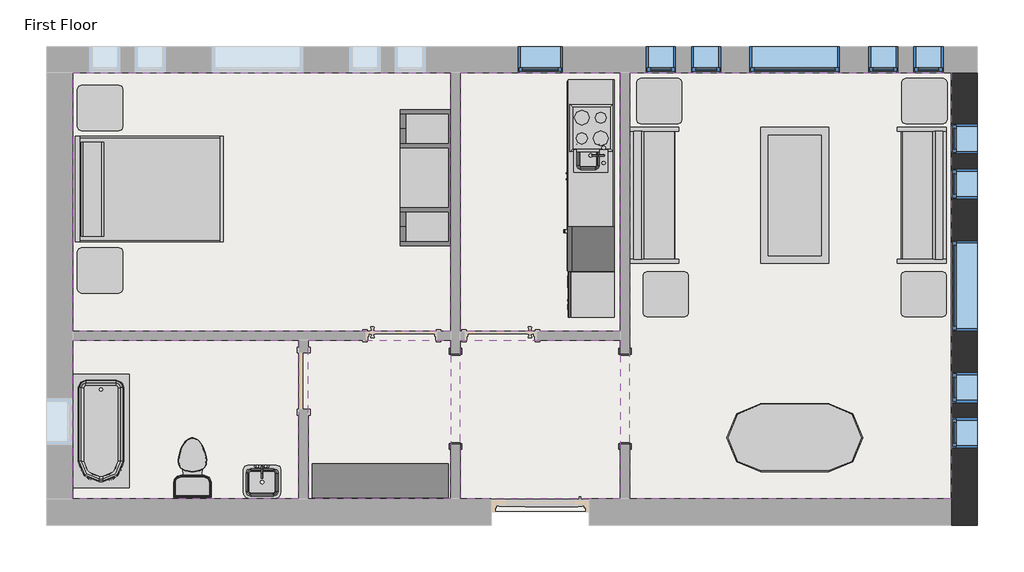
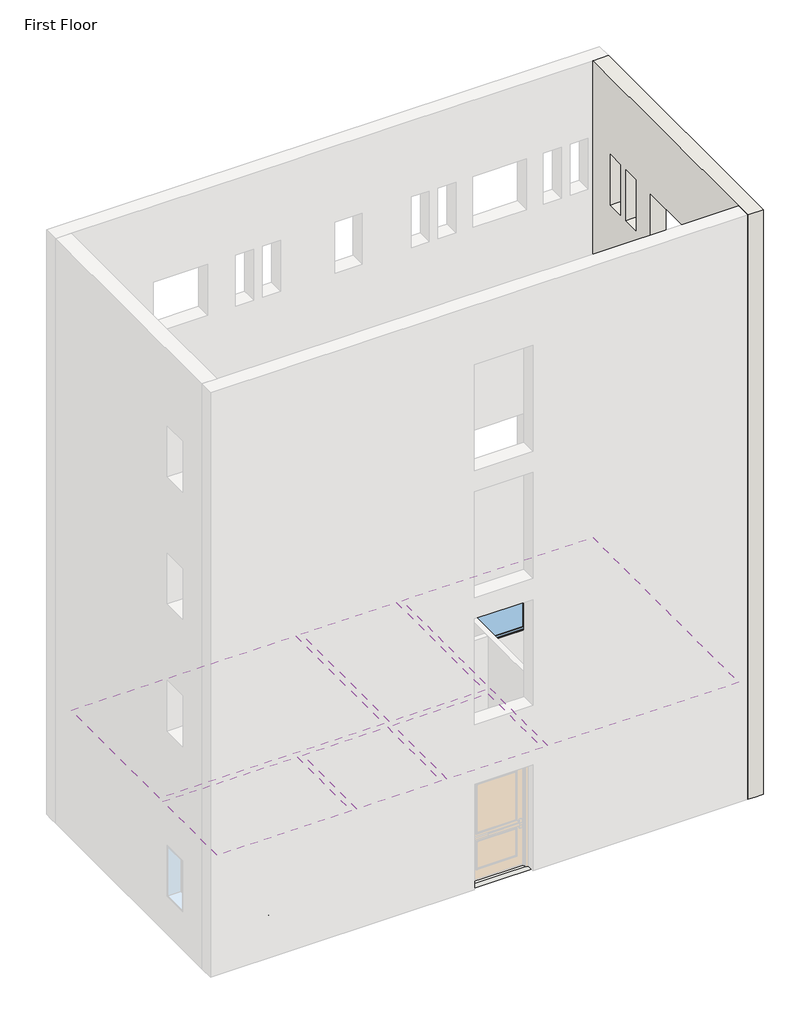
# One storey, part 2 of 2: 14 furniture elements, 11 windows, 6 coverings, 6 proxies, 4 flow terminals, 1 slab, 1 wall.
"""IFC4 building model written with IfcOpenShell, lengths in millimetres."""

from ifc_helpers import new_model, si_unit, frame, origin, place, context, project, spatial, polyline, outline, extrude, faceted_brep, transform, mapped, element, save
from components import proxy_a6faaae8, proxy_45b28599, proxy_2d72b8be, proxy_f44482cc, proxy_d58c73d0, proxy_c523a7b7, flow_terminal_871c2e40, flow_terminal_62a433f7, toilet_domestic_3d_toilet_domestic_3d_f7549cf7, toilet_domestic_3d_toilet_domestic_3d_183bbd19, tub_rectangular_3d_tub_rectangular_3d_c56944d8, furniture_096e7f55, furniture_b11095bc, furniture_7c473f12, furniture_cf0b6580, furniture_a4ffab56, furniture_4aa42607, furniture_cd93a443, furniture_2c34a4f9, furniture_3a588284, furniture_1befe2a2, window_da97879f, window_d61ef850, window_60baf983, window_6eb97611

model = new_model("IFC4")

# Units and contexts
model_context = context("Model", 3, world=origin())
ifc_project = project(units=[si_unit("LENGTHUNIT", "METRE", prefix="MILLI")], contexts=[model_context])

# Site, building, storey
site = spatial("IfcSite", under=ifc_project)
building = spatial("IfcBuilding", under=site)
storey = spatial("IfcBuildingStorey", under=building, Name="First Floor", Elevation=-914.4)

# Proxies
placement = place(None, origin())
proxy_shape = proxy_a6faaae8(model_context)
element("IfcBuildingElementProxy", 1, Name="Cook Top-4 Unit2 : 22\" x 20\"", ObjectType="Cook Top-4 Unit2 : 22\" x 20\"", at=placement, inside=storey, context=model_context, shape_type="MappedRepresentation", body=[
    mapped(proxy_shape, transform((-9031.7273953, 6866.0370415, -912.7), x_axis=(0.0, 1.0, 0.0), y_axis=(-1.0, 0.0, 0.0), z_axis=(0.0, 0.0, 1.0))),
])
proxy_2_shape = proxy_45b28599(model_context)
element("IfcBuildingElementProxy", 2, Name="Dishwasher : 24\" x 24\" x 34\"", ObjectType="Dishwasher : 24\" x 24\" x 34\"", at=placement, inside=storey, context=model_context, shape_type="MappedRepresentation", body=[
    mapped(proxy_2_shape, transform((-9291.8269601, 5000.45451, -914.4), x_axis=(0.0, -1.0, 0.0), y_axis=(1.0, 0.0, 0.0), z_axis=(0.0, 0.0, 1.0))),
])
proxy_3_shape = proxy_2d72b8be(model_context)
element("IfcBuildingElementProxy", 3, Name="Kitchenette - Medium : 8'6\"", ObjectType="Kitchenette - Medium : 8'6\"", at=placement, inside=storey, context=model_context, shape_type="MappedRepresentation", body=[
    mapped(proxy_3_shape, transform((-8720.5773953, 6237.0747464, -914.4), x_axis=(0.0, -1.0, 0.0), y_axis=(1.0, 0.0, 0.0), z_axis=(0.0, 0.0, 1.0))),
])
proxy_4_shape = proxy_f44482cc(model_context)
element("IfcBuildingElementProxy", 4, Name="Passage Opening-Cased : 48\" x 84\"", ObjectType="Passage Opening-Cased : 48\" x 84\"", at=placement, inside=storey, context=model_context, shape_type="MappedRepresentation", body=[
    mapped(proxy_4_shape, transform((-8577.1844712, 3224.0452741, -914.4), x_axis=(0.0, 1.0, 0.0), y_axis=(-1.0, 0.0, 0.0), z_axis=(0.0, 0.0, 1.0))),
])
proxy_5_shape = proxy_d58c73d0(model_context)
element("IfcBuildingElementProxy", 5, Name="Passage Opening-Cased : 48\" x 84\"", ObjectType="Passage Opening-Cased : 48\" x 84\"", at=placement, inside=storey, context=model_context, shape_type="MappedRepresentation", body=[
    mapped(proxy_5_shape, transform((-10863.1844712, 3224.0452741, -914.4), x_axis=(0.0, 1.0, 0.0), y_axis=(-1.0, 0.0, 0.0), z_axis=(0.0, 0.0, 1.0))),
])
proxy_6_shape = proxy_c523a7b7(model_context)
element("IfcBuildingElementProxy", 6, Name="Refrigerator : 24\" x 25\" LH", ObjectType="Refrigerator : 24\" x 25\" LH", at=placement, inside=storey, context=model_context, shape_type="MappedRepresentation", body=[
    mapped(proxy_6_shape, transform((-9020.2263668, 5234.0870415, -914.4), x_axis=(0.0, -1.0, 0.0), y_axis=(1.0, 0.0, 0.0), z_axis=(0.0, 0.0, 1.0))),
])

# Coverings
element("IfcCovering", 7, ObjectType="GWB on Mtl. Stud", at=placement, inside=storey, context=model_context, shape_type="SweptSolid", body=[
    extrude(outline(polyline([(-16020.9719712, 7611.6441174), (-10926.6844712, 7611.6441174), (-10926.6844712, 4130.1880697), (-16020.9719712, 4130.1880697), (-16020.9719712, 7611.6441174)])), frame((0.0, 0.0, 1676.4), z_axis=(0.0, 0.0, 1.0), x_axis=(1.0, 0.0, 0.0)), (0.0, 0.0, 1.0), 107.95),
])
element("IfcCovering", 8, ObjectType="GWB on Mtl. Stud", at=placement, inside=storey, context=model_context, shape_type="SweptSolid", body=[
    extrude(outline(polyline([(-10799.6844712, 4130.1880697), (-10799.6844712, 7611.6441174), (-8640.6844712, 7611.6441174), (-8640.6844712, 4130.1880697), (-10799.6844712, 4130.1880697)])), frame((0.0, 0.0, 1676.4), z_axis=(0.0, 0.0, 1.0), x_axis=(1.0, 0.0, 0.0)), (0.0, 0.0, 1.0), 107.95),
])
element("IfcCovering", 9, ObjectType="GWB on Mtl. Stud", at=placement, inside=storey, context=model_context, shape_type="SweptSolid", body=[
    extrude(outline(polyline([(-8513.6844712, 1868.0691174), (-8513.6844712, 7611.6441174), (-4181.3969712, 7611.6441174), (-4181.3969712, 1868.0691174), (-8513.6844712, 1868.0691174)])), frame((0.0, 0.0, 1676.4), z_axis=(0.0, 0.0, 1.0), x_axis=(1.0, 0.0, 0.0)), (0.0, 0.0, 1.0), 107.95),
])
element("IfcCovering", 10, ObjectType="GWB on Mtl. Stud", at=placement, inside=storey, context=model_context, shape_type="SweptSolid", body=[
    extrude(outline(polyline([(-8640.6844712, 1868.0691174), (-10799.6844712, 1868.0691174), (-10799.6844712, 4003.1880697), (-8640.6844712, 4003.1880697), (-8640.6844712, 1868.0691174)])), frame((0.0, 0.0, 1676.4), z_axis=(0.0, 0.0, 1.0), x_axis=(1.0, 0.0, 0.0)), (0.0, 0.0, 1.0), 107.95),
])
element("IfcCovering", 11, ObjectType="GWB on Mtl. Stud", at=placement, inside=storey, context=model_context, shape_type="SweptSolid", body=[
    extrude(outline(polyline([(-10926.6844712, 1868.0691174), (-12845.9719712, 1868.0691174), (-12845.9719712, 4003.1880697), (-10926.6844712, 4003.1880697), (-10926.6844712, 1868.0691174)])), frame((0.0, 0.0, 1676.4), z_axis=(0.0, 0.0, 1.0), x_axis=(1.0, 0.0, 0.0)), (0.0, 0.0, 1.0), 107.95),
])
element("IfcCovering", 12, ObjectType="GWB on Mtl. Stud", at=placement, inside=storey, context=model_context, shape_type="SweptSolid", body=[
    extrude(outline(polyline([(-12972.9719712, 4003.1880697), (-12972.9719712, 1868.0691174), (-16020.9719712, 1868.0691174), (-16020.9719712, 4003.1880697), (-12972.9719712, 4003.1880697)])), frame((0.0, 0.0, 1676.4), z_axis=(0.0, 0.0, 1.0), x_axis=(1.0, 0.0, 0.0)), (0.0, 0.0, 1.0), 107.95),
])

# Flow terminals
flow_terminal_shape = flow_terminal_871c2e40(model_context)
element("IfcFlowTerminal", 13, ObjectType="Sink Kitchen-Island : 18\" x 18\"", at=placement, inside=storey, context=model_context, shape_type="MappedRepresentation", body=[
    mapped(flow_terminal_shape, transform((-9040.4227964, 6513.4262821, -927.1), x_axis=(0.0, -1.0, 0.0), y_axis=(1.0, 0.0, 0.0), z_axis=(0.0, 0.0, 1.0))),
])
flow_terminal_2_shape = flow_terminal_62a433f7(model_context)
element("IfcFlowTerminal", 14, ObjectType="Sink Vanity-Square : 20\" x 18\"", at=placement, inside=storey, context=model_context, shape_type="MappedRepresentation", body=[
    mapped(flow_terminal_2_shape, transform((-13483.9612118, 2145.1237163, -914.4), x_axis=(1.0, 0.0, 0.0), y_axis=(0.0, 1.0, 0.0), z_axis=(0.0, 0.0, 1.0))),
])
toilet_domestic_3d_toilet_domestic_3d_shape = toilet_domestic_3d_toilet_domestic_3d_f7549cf7(model_context)
toilet_domestic_3d_toilet_domestic_3d_2_shape = toilet_domestic_3d_toilet_domestic_3d_183bbd19(model_context)
element("IfcFlowTerminal", 15, ObjectType="Toilet-Domestic-3D : Toilet-Domestic-3D", at=placement, inside=storey, context=model_context, shape_type="MappedRepresentation", body=[
    mapped(toilet_domestic_3d_toilet_domestic_3d_shape, transform((-14408.0719712, 2388.7691174, -914.4), x_axis=(-1.0, 0.0, 0.0), y_axis=(0.0, -1.0, 0.0), z_axis=(0.0, 0.0, 1.0))),
    mapped(toilet_domestic_3d_toilet_domestic_3d_2_shape, transform((-14408.0719712, 2388.7691174, -914.4), x_axis=(-1.0, 0.0, 0.0), y_axis=(0.0, -1.0, 0.0), z_axis=(0.0, 0.0, 1.0))),
])
tub_rectangular_3d_tub_rectangular_3d_shape = tub_rectangular_3d_tub_rectangular_3d_c56944d8(model_context)
element("IfcFlowTerminal", 16, ObjectType="Tub-Rectangular-3D : Tub-Rectangular-3D", at=placement, inside=storey, context=model_context, shape_type="MappedRepresentation", body=[
    mapped(tub_rectangular_3d_tub_rectangular_3d_shape, transform((-16197.1844712, 2435.4536487, -914.4), x_axis=(0.0, -1.0, 0.0), y_axis=(1.0, 0.0, 0.0), z_axis=(0.0, 0.0, 1.0))),
])

# Furniture
furniture_shape = furniture_096e7f55(model_context)
element("IfcFurniture", 17, ObjectType="Bed-Shaker : Double 56\" x 78\"", at=placement, inside=storey, context=model_context, shape_type="MappedRepresentation", body=[
    mapped(furniture_shape, transform((-15975.8112951, 6061.1004868, -914.4), x_axis=(0.0, 1.0, 0.0), y_axis=(-1.0, 0.0, 0.0), z_axis=(0.0, 0.0, 1.0))),
])
furniture_2_shape = furniture_b11095bc(model_context)
element("IfcFurniture", 18, ObjectType="Counter Top w Sink Hole : 24\" Depth", at=placement, inside=storey, context=model_context, shape_type="MappedRepresentation", body=[
    mapped(furniture_2_shape, transform((-8720.5773953, 6313.2747464, -927.1), x_axis=(0.0, -1.0, 0.0), y_axis=(1.0, 0.0, 0.0), z_axis=(0.0, 0.0, 1.0))),
])
furniture_3_shape = furniture_7c473f12(model_context)
element("IfcFurniture", 19, ObjectType="Dresser : 72\" x 60\" x 18\"", at=placement, inside=storey, context=model_context, shape_type="MappedRepresentation", body=[
    mapped(furniture_3_shape, transform((-11608.4037114, 2478.8820715, -914.4), x_axis=(1.0, 0.0, 0.0), y_axis=(0.0, 1.0, 0.0), z_axis=(0.0, 0.0, 1.0))),
])
furniture_4_shape = furniture_cf0b6580(model_context)
element("IfcFurniture", 20, ObjectType="Entertainment Center : 72\" x 72\" x 24\"", at=placement, inside=storey, context=model_context, shape_type="MappedRepresentation", body=[
    mapped(furniture_4_shape, transform((-10825.0844712, 6196.8069525, -914.4), x_axis=(0.0, -1.0, 0.0), y_axis=(1.0, 0.0, 0.0), z_axis=(0.0, 0.0, 1.0))),
])
furniture_5_shape = furniture_a4ffab56(model_context)
element("IfcFurniture", 21, ObjectType="Sofa : 72\"", at=placement, inside=storey, context=model_context, shape_type="MappedRepresentation", body=[
    mapped(furniture_5_shape, transform((-8037.3303728, 5888.6861256, -914.4), x_axis=(0.0, 1.0, 0.0), y_axis=(-1.0, 0.0, 0.0), z_axis=(0.0, 0.0, 1.0))),
])
furniture_6_shape = furniture_4aa42607(model_context)
element("IfcFurniture", 22, ObjectType="Sofa : 72\"", at=placement, inside=storey, context=model_context, shape_type="MappedRepresentation", body=[
    mapped(furniture_6_shape, transform((-4722.8385696, 5888.6861256, -914.4), x_axis=(0.0, 1.0, 0.0), y_axis=(-1.0, 0.0, 0.0), z_axis=(0.0, 0.0, 1.0))),
])
furniture_7_shape = furniture_cd93a443(model_context)
element("IfcFurniture", 23, ObjectType="Table-Coffee : 36\" x 72\" x 18\"", at=placement, inside=storey, context=model_context, shape_type="MappedRepresentation", body=[
    mapped(furniture_7_shape, transform((-6386.395549, 5977.3223841, -914.4), x_axis=(0.0, -1.0, 0.0), y_axis=(1.0, 0.0, 0.0), z_axis=(0.0, 0.0, 1.0))),
])
furniture_8_shape = furniture_2c34a4f9(model_context)
element("IfcFurniture", 24, ObjectType="Table-Dining Oval : 36\" x 72\"", at=placement, inside=storey, context=model_context, shape_type="MappedRepresentation", body=[
    mapped(furniture_8_shape, transform((-5889.3647991, 3051.6674781, -914.4), x_axis=(1.0, 0.0, 0.0), y_axis=(0.0, 1.0, 0.0), z_axis=(0.0, 0.0, 1.0))),
])
furniture_9_shape = furniture_3a588284(model_context)
element("IfcFurniture", 25, ObjectType="Table-End : 24\" x 24\"", at=placement, inside=storey, context=model_context, shape_type="MappedRepresentation", body=[
    mapped(furniture_9_shape, transform((-8424.0054177, 7076.6566174, -914.4), x_axis=(1.0, 0.0, 0.0), y_axis=(0.0, 1.0, 0.0), z_axis=(0.0, 0.0, 1.0))),
])
element("IfcFurniture", 26, ObjectType="Table-End : 24\" x 24\"", at=placement, inside=storey, context=model_context, shape_type="MappedRepresentation", body=[
    mapped(furniture_9_shape, transform((-8338.5433691, 4473.0178252, -914.4), x_axis=(1.0, 0.0, 0.0), y_axis=(0.0, 1.0, 0.0), z_axis=(0.0, 0.0, 1.0))),
])
element("IfcFurniture", 27, ObjectType="Table-End : 24\" x 24\"", at=placement, inside=storey, context=model_context, shape_type="MappedRepresentation", body=[
    mapped(furniture_9_shape, transform((-15961.2056015, 4795.4191174, -914.4), x_axis=(1.0, 0.0, 0.0), y_axis=(0.0, 1.0, 0.0), z_axis=(0.0, 0.0, 1.0))),
])
furniture_10_shape = furniture_1befe2a2(model_context)
element("IfcFurniture", 28, ObjectType="Table-End : 24\" x 24\"", at=placement, inside=storey, context=model_context, shape_type="MappedRepresentation", body=[
    mapped(furniture_10_shape, transform((-4234.5635246, 7076.6566174, -914.4), x_axis=(-1.0, 0.0, 0.0), y_axis=(0.0, -1.0, 0.0), z_axis=(0.0, 0.0, 1.0))),
])
element("IfcFurniture", 29, ObjectType="Table-End : 24\" x 24\"", at=placement, inside=storey, context=model_context, shape_type="MappedRepresentation", body=[
    mapped(furniture_10_shape, transform((-4243.8255733, 4473.0178252, -914.4), x_axis=(-1.0, 0.0, 0.0), y_axis=(0.0, -1.0, 0.0), z_axis=(0.0, 0.0, 1.0))),
])
element("IfcFurniture", 30, ObjectType="Table-End : 24\" x 24\"", at=placement, inside=storey, context=model_context, shape_type="MappedRepresentation", body=[
    mapped(furniture_10_shape, transform((-15961.2056015, 7288.6818561, -914.4), x_axis=(1.0, 0.0, 0.0), y_axis=(0.0, 1.0, 0.0), z_axis=(0.0, 0.0, 1.0))),
])

# Slab
element("IfcSlab", 31, ObjectType="LW Concrete on Metal Deck", at=placement, inside=storey, context=model_context, shape_type="SweptSolid", body=[
    extrude(outline(polyline([(-4016.2969712, 7776.7441174), (-4016.2969712, 1702.9691174), (-16186.0719712, 1702.9691174), (-16186.0719712, 7776.7441174), (-4016.2969712, 7776.7441174)])), frame((0.0, 0.0, -1019.175), z_axis=(0.0, 0.0, 1.0), x_axis=(1.0, 0.0, 0.0)), (0.0, 0.0, 1.0), 104.775),
])

# Wall
element("IfcWall", 32, ObjectType="Exterior - Brick on Mtl. Stud", at=placement, inside=storey, context=model_context, shape_type="Brep", body=[
    faceted_brep([(-4181.3969712, 7611.6441174, -914.4), (-4181.3969712, 1868.0691174, -914.4), (-4181.3969712, 1702.9691174, -914.4), (-4181.3969712, 1515.6441174, -914.4), (-4181.3969712, 1515.6441174, 13106.4), (-4181.3969712, 1868.0691174, 13106.4), (-4181.3969712, 7611.6441174, 13106.4), (-4181.3969712, 5349.4566174, 1219.2), (-4181.3969712, 4130.2566174, 1219.2), (-4181.3969712, 4130.2566174, 0.0), (-4181.3969712, 5349.4566174, 0.0), (-4181.3969712, 6314.6566174, 1219.2), (-4181.3969712, 5908.2566174, 1219.2), (-4181.3969712, 5908.2566174, 0.0), (-4181.3969712, 6314.6566174, 0.0), (-4181.3969712, 6924.2566174, 1219.2), (-4181.3969712, 6517.8566174, 1219.2), (-4181.3969712, 6517.8566174, 0.0), (-4181.3969712, 6924.2566174, 0.0), (-4181.3969712, 3165.0566174, 1219.2), (-4181.3969712, 3165.0566174, 0.0), (-4181.3969712, 3571.4566174, 0.0), (-4181.3969712, 3571.4566174, 1219.2), (-4181.3969712, 2555.4566174, 1219.2), (-4181.3969712, 2555.4566174, 0.0), (-4181.3969712, 2961.8566174, 0.0), (-4181.3969712, 2961.8566174, 1219.2), (-4181.3969712, 3165.0566174, 11277.6), (-4181.3969712, 3165.0566174, 10058.4), (-4181.3969712, 3571.4566174, 10058.4), (-4181.3969712, 3571.4566174, 11277.6), (-4181.3969712, 2555.4566174, 11277.6), (-4181.3969712, 2555.4566174, 10058.4), (-4181.3969712, 2961.8566174, 10058.4), (-4181.3969712, 2961.8566174, 11277.6), (-4181.3969712, 6314.6566174, 11277.6), (-4181.3969712, 5908.2566174, 11277.6), (-4181.3969712, 5908.2566174, 10058.4), (-4181.3969712, 6314.6566174, 10058.4), (-4181.3969712, 6924.2566174, 11277.6), (-4181.3969712, 6517.8566174, 11277.6), (-4181.3969712, 6517.8566174, 10058.4), (-4181.3969712, 6924.2566174, 10058.4), (-4181.3969712, 5349.4566174, 11277.6), (-4181.3969712, 4130.2566174, 11277.6), (-4181.3969712, 4130.2566174, 10058.4), (-4181.3969712, 5349.4566174, 10058.4), (-4181.3969712, 3165.0566174, 5181.6), (-4181.3969712, 3165.0566174, 3962.4), (-4181.3969712, 3571.4566174, 3962.4), (-4181.3969712, 3571.4566174, 5181.6), (-4181.3969712, 2555.4566174, 5181.6), (-4181.3969712, 2555.4566174, 3962.4), (-4181.3969712, 2961.8566174, 3962.4), (-4181.3969712, 2961.8566174, 5181.6), (-4181.3969712, 6314.6566174, 5181.6), (-4181.3969712, 5908.2566174, 5181.6), (-4181.3969712, 5908.2566174, 3962.4), (-4181.3969712, 6314.6566174, 3962.4), (-4181.3969712, 6924.2566174, 5181.6), (-4181.3969712, 6517.8566174, 5181.6), (-4181.3969712, 6517.8566174, 3962.4), (-4181.3969712, 6924.2566174, 3962.4), (-4181.3969712, 5349.4566174, 5181.6), (-4181.3969712, 4130.2566174, 5181.6), (-4181.3969712, 4130.2566174, 3962.4), (-4181.3969712, 5349.4566174, 3962.4), (-4181.3969712, 3165.0566174, 8229.6), (-4181.3969712, 3165.0566174, 7010.4), (-4181.3969712, 3571.4566174, 7010.4), (-4181.3969712, 3571.4566174, 8229.6), (-4181.3969712, 2555.4566174, 8229.6), (-4181.3969712, 2555.4566174, 7010.4), (-4181.3969712, 2961.8566174, 7010.4), (-4181.3969712, 2961.8566174, 8229.6), (-4181.3969712, 6314.6566174, 8229.6), (-4181.3969712, 5908.2566174, 8229.6), (-4181.3969712, 5908.2566174, 7010.4), (-4181.3969712, 6314.6566174, 7010.4), (-4181.3969712, 6924.2566174, 8229.6), (-4181.3969712, 6517.8566174, 8229.6), (-4181.3969712, 6517.8566174, 7010.4), (-4181.3969712, 6924.2566174, 7010.4), (-4181.3969712, 5349.4566174, 8229.6), (-4181.3969712, 4130.2566174, 8229.6), (-4181.3969712, 4130.2566174, 7010.4), (-4181.3969712, 5349.4566174, 7010.4), (-3828.9719712, 7611.6441174, -914.4), (-3828.9719712, 7611.6441174, 13106.4), (-3828.9719712, 1515.6441174, 13106.4), (-3828.9719712, 1515.6441174, -914.4), (-3828.9719712, 1702.9691174, -914.4), (-3828.9719712, 5349.4566174, 1219.2), (-3828.9719712, 5349.4566174, 0.0), (-3828.9719712, 4130.2566174, 0.0), (-3828.9719712, 4130.2566174, 1219.2), (-3828.9719712, 6314.6566174, 1219.2), (-3828.9719712, 6314.6566174, 0.0), (-3828.9719712, 5908.2566174, 0.0), (-3828.9719712, 5908.2566174, 1219.2), (-3828.9719712, 6924.2566174, 1219.2), (-3828.9719712, 6924.2566174, 0.0), (-3828.9719712, 6517.8566174, 0.0), (-3828.9719712, 6517.8566174, 1219.2), (-3828.9719712, 3165.0566174, 1219.2), (-3828.9719712, 3571.4566174, 1219.2), (-3828.9719712, 3571.4566174, 0.0), (-3828.9719712, 3165.0566174, 0.0), (-3828.9719712, 2555.4566174, 1219.2), (-3828.9719712, 2961.8566174, 1219.2), (-3828.9719712, 2961.8566174, 0.0), (-3828.9719712, 2555.4566174, 0.0), (-3828.9719712, 3165.0566174, 11277.6), (-3828.9719712, 3571.4566174, 11277.6), (-3828.9719712, 3571.4566174, 10058.4), (-3828.9719712, 3165.0566174, 10058.4), (-3828.9719712, 2555.4566174, 11277.6), (-3828.9719712, 2961.8566174, 11277.6), (-3828.9719712, 2961.8566174, 10058.4), (-3828.9719712, 2555.4566174, 10058.4), (-3828.9719712, 6314.6566174, 11277.6), (-3828.9719712, 6314.6566174, 10058.4), (-3828.9719712, 5908.2566174, 10058.4), (-3828.9719712, 5908.2566174, 11277.6), (-3828.9719712, 6924.2566174, 11277.6), (-3828.9719712, 6924.2566174, 10058.4), (-3828.9719712, 6517.8566174, 10058.4), (-3828.9719712, 6517.8566174, 11277.6), (-3828.9719712, 5349.4566174, 11277.6), (-3828.9719712, 5349.4566174, 10058.4), (-3828.9719712, 4130.2566174, 10058.4), (-3828.9719712, 4130.2566174, 11277.6), (-3828.9719712, 3165.0566174, 5181.6), (-3828.9719712, 3571.4566174, 5181.6), (-3828.9719712, 3571.4566174, 3962.4), (-3828.9719712, 3165.0566174, 3962.4), (-3828.9719712, 2555.4566174, 5181.6), (-3828.9719712, 2961.8566174, 5181.6), (-3828.9719712, 2961.8566174, 3962.4), (-3828.9719712, 2555.4566174, 3962.4), (-3828.9719712, 6314.6566174, 5181.6), (-3828.9719712, 6314.6566174, 3962.4), (-3828.9719712, 5908.2566174, 3962.4), (-3828.9719712, 5908.2566174, 5181.6), (-3828.9719712, 6924.2566174, 5181.6), (-3828.9719712, 6924.2566174, 3962.4), (-3828.9719712, 6517.8566174, 3962.4), (-3828.9719712, 6517.8566174, 5181.6), (-3828.9719712, 5349.4566174, 5181.6), (-3828.9719712, 5349.4566174, 3962.4), (-3828.9719712, 4130.2566174, 3962.4), (-3828.9719712, 4130.2566174, 5181.6), (-3828.9719712, 3165.0566174, 8229.6), (-3828.9719712, 3571.4566174, 8229.6), (-3828.9719712, 3571.4566174, 7010.4), (-3828.9719712, 3165.0566174, 7010.4), (-3828.9719712, 2555.4566174, 8229.6), (-3828.9719712, 2961.8566174, 8229.6), (-3828.9719712, 2961.8566174, 7010.4), (-3828.9719712, 2555.4566174, 7010.4), (-3828.9719712, 6314.6566174, 8229.6), (-3828.9719712, 6314.6566174, 7010.4), (-3828.9719712, 5908.2566174, 7010.4), (-3828.9719712, 5908.2566174, 8229.6), (-3828.9719712, 6924.2566174, 8229.6), (-3828.9719712, 6924.2566174, 7010.4), (-3828.9719712, 6517.8566174, 7010.4), (-3828.9719712, 6517.8566174, 8229.6), (-3828.9719712, 5349.4566174, 8229.6), (-3828.9719712, 5349.4566174, 7010.4), (-3828.9719712, 4130.2566174, 7010.4), (-3828.9719712, 4130.2566174, 8229.6), (-4016.2969712, 7611.6441174, -914.4), (-4016.2969712, 1515.6441174, -914.4), (-4016.2969712, 1702.9691174, -914.4)], [[[0, 1, 2, 3, 4, 5, 6], [7, 8, 9, 10], [11, 12, 13, 14], [15, 16, 17, 18], [19, 20, 21, 22], [23, 24, 25, 26], [27, 28, 29, 30], [31, 32, 33, 34], [35, 36, 37, 38], [39, 40, 41, 42], [43, 44, 45, 46], [47, 48, 49, 50], [51, 52, 53, 54], [55, 56, 57, 58], [59, 60, 61, 62], [63, 64, 65, 66], [67, 68, 69, 70], [71, 72, 73, 74], [75, 76, 77, 78], [79, 80, 81, 82], [83, 84, 85, 86]], [[87, 88, 89, 90, 91], [92, 93, 94, 95], [96, 97, 98, 99], [100, 101, 102, 103], [104, 105, 106, 107], [108, 109, 110, 111], [112, 113, 114, 115], [116, 117, 118, 119], [120, 121, 122, 123], [124, 125, 126, 127], [128, 129, 130, 131], [132, 133, 134, 135], [136, 137, 138, 139], [140, 141, 142, 143], [144, 145, 146, 147], [148, 149, 150, 151], [152, 153, 154, 155], [156, 157, 158, 159], [160, 161, 162, 163], [164, 165, 166, 167], [168, 169, 170, 171]], [[6, 5, 4, 89, 88]], [[0, 6, 88, 87, 172]], [[4, 3, 173, 90, 89]], [[93, 92, 7, 10]], [[94, 93, 10, 9]], [[95, 94, 9, 8]], [[92, 95, 8, 7]], [[97, 96, 11, 14]], [[98, 97, 14, 13]], [[99, 98, 13, 12]], [[96, 99, 12, 11]], [[101, 100, 15, 18]], [[102, 101, 18, 17]], [[103, 102, 17, 16]], [[100, 103, 16, 15]], [[20, 19, 104, 107]], [[21, 20, 107, 106]], [[22, 21, 106, 105]], [[19, 22, 105, 104]], [[24, 23, 108, 111]], [[25, 24, 111, 110]], [[26, 25, 110, 109]], [[23, 26, 109, 108]], [[172, 87, 91, 174]], [[3, 2, 174, 173]], [[174, 91, 90, 173]], [[2, 1, 0, 172, 174]], [[28, 27, 112, 115]], [[29, 28, 115, 114]], [[30, 29, 114, 113]], [[27, 30, 113, 112]], [[32, 31, 116, 119]], [[33, 32, 119, 118]], [[34, 33, 118, 117]], [[31, 34, 117, 116]], [[121, 120, 35, 38]], [[122, 121, 38, 37]], [[123, 122, 37, 36]], [[120, 123, 36, 35]], [[125, 124, 39, 42]], [[126, 125, 42, 41]], [[127, 126, 41, 40]], [[124, 127, 40, 39]], [[129, 128, 43, 46]], [[130, 129, 46, 45]], [[131, 130, 45, 44]], [[128, 131, 44, 43]], [[48, 47, 132, 135]], [[49, 48, 135, 134]], [[50, 49, 134, 133]], [[47, 50, 133, 132]], [[52, 51, 136, 139]], [[53, 52, 139, 138]], [[54, 53, 138, 137]], [[51, 54, 137, 136]], [[141, 140, 55, 58]], [[142, 141, 58, 57]], [[143, 142, 57, 56]], [[140, 143, 56, 55]], [[145, 144, 59, 62]], [[146, 145, 62, 61]], [[147, 146, 61, 60]], [[144, 147, 60, 59]], [[149, 148, 63, 66]], [[150, 149, 66, 65]], [[151, 150, 65, 64]], [[148, 151, 64, 63]], [[68, 67, 152, 155]], [[69, 68, 155, 154]], [[70, 69, 154, 153]], [[67, 70, 153, 152]], [[72, 71, 156, 159]], [[73, 72, 159, 158]], [[74, 73, 158, 157]], [[71, 74, 157, 156]], [[161, 160, 75, 78]], [[162, 161, 78, 77]], [[163, 162, 77, 76]], [[160, 163, 76, 75]], [[165, 164, 79, 82]], [[166, 165, 82, 81]], [[167, 166, 81, 80]], [[164, 167, 80, 79]], [[169, 168, 83, 86]], [[170, 169, 86, 85]], [[171, 170, 85, 84]], [[168, 171, 84, 83]]]),
])

# Windows
window_shape = window_da97879f(model_context)
element("IfcWindow", 33, ObjectType="Fixed : 16\" x 48\"", at=placement, inside=storey, context=model_context, shape_type="MappedRepresentation", body=[
    mapped(window_shape, transform((-8132.6844712, 7787.8566174, -914.4), x_axis=(-1.0, 0.0, 0.0), y_axis=(0.0, -1.0, 0.0), z_axis=(0.0, 0.0, 1.0))),
])
element("IfcWindow", 34, ObjectType="Fixed : 16\" x 48\"", at=placement, inside=storey, context=model_context, shape_type="MappedRepresentation", body=[
    mapped(window_shape, transform((-7523.0844712, 7787.8566174, -914.4), x_axis=(-1.0, 0.0, 0.0), y_axis=(0.0, -1.0, 0.0), z_axis=(0.0, 0.0, 1.0))),
])
element("IfcWindow", 35, ObjectType="Fixed : 16\" x 48\"", at=placement, inside=storey, context=model_context, shape_type="MappedRepresentation", body=[
    mapped(window_shape, transform((-4005.1844712, 6759.1566174, -914.4), x_axis=(0.0, 1.0, 0.0), y_axis=(-1.0, 0.0, 0.0), z_axis=(0.0, 0.0, 1.0))),
])
element("IfcWindow", 36, ObjectType="Fixed : 16\" x 48\"", at=placement, inside=storey, context=model_context, shape_type="MappedRepresentation", body=[
    mapped(window_shape, transform((-4005.1844712, 6149.5566174, -914.4), x_axis=(0.0, 1.0, 0.0), y_axis=(-1.0, 0.0, 0.0), z_axis=(0.0, 0.0, 1.0))),
])
window_2_shape = window_d61ef850(model_context)
element("IfcWindow", 37, ObjectType="Fixed : 16\" x 48\"", at=placement, inside=storey, context=model_context, shape_type="MappedRepresentation", body=[
    mapped(window_2_shape, transform((-4449.6844712, 7787.8566174, -914.4), x_axis=(1.0, 0.0, 0.0), y_axis=(0.0, 1.0, 0.0), z_axis=(0.0, 0.0, 1.0))),
])
element("IfcWindow", 38, ObjectType="Fixed : 16\" x 48\"", at=placement, inside=storey, context=model_context, shape_type="MappedRepresentation", body=[
    mapped(window_2_shape, transform((-5059.2844712, 7787.8566174, -914.4), x_axis=(1.0, 0.0, 0.0), y_axis=(0.0, 1.0, 0.0), z_axis=(0.0, 0.0, 1.0))),
])
element("IfcWindow", 39, ObjectType="Fixed : 16\" x 48\"", at=placement, inside=storey, context=model_context, shape_type="MappedRepresentation", body=[
    mapped(window_2_shape, transform((-4005.1844712, 2720.5566174, -914.4), x_axis=(0.0, -1.0, 0.0), y_axis=(1.0, 0.0, 0.0), z_axis=(0.0, 0.0, 1.0))),
])
element("IfcWindow", 40, ObjectType="Fixed : 16\" x 48\"", at=placement, inside=storey, context=model_context, shape_type="MappedRepresentation", body=[
    mapped(window_2_shape, transform((-4005.1844712, 3330.1566174, -914.4), x_axis=(0.0, -1.0, 0.0), y_axis=(1.0, 0.0, 0.0), z_axis=(0.0, 0.0, 1.0))),
])
window_3_shape = window_60baf983(model_context)
element("IfcWindow", 41, ObjectType="Fixed : 24\" x 48\"", at=placement, inside=storey, context=model_context, shape_type="MappedRepresentation", body=[
    mapped(window_3_shape, transform((-9758.2844712, 7787.8566174, -914.4), x_axis=(-1.0, 0.0, 0.0), y_axis=(0.0, -1.0, 0.0), z_axis=(0.0, 0.0, 1.0))),
])
window_4_shape = window_6eb97611(model_context)
element("IfcWindow", 42, ObjectType="Fixed : 48\" x 48\"", at=placement, inside=storey, context=model_context, shape_type="MappedRepresentation", body=[
    mapped(window_4_shape, transform((-6329.2844712, 7787.8566174, -914.4), x_axis=(-1.0, 0.0, 0.0), y_axis=(0.0, -1.0, 0.0), z_axis=(0.0, 0.0, 1.0))),
])
element("IfcWindow", 43, ObjectType="Fixed : 48\" x 48\"", at=placement, inside=storey, context=model_context, shape_type="MappedRepresentation", body=[
    mapped(window_4_shape, transform((-4005.1844712, 4777.9566174, -914.4), x_axis=(0.0, 1.0, 0.0), y_axis=(-1.0, 0.0, 0.0), z_axis=(0.0, 0.0, 1.0))),
])

save(model, "model.ifc")
